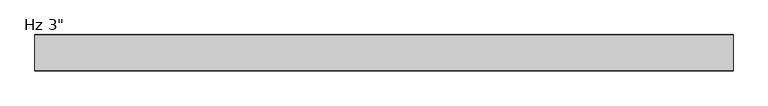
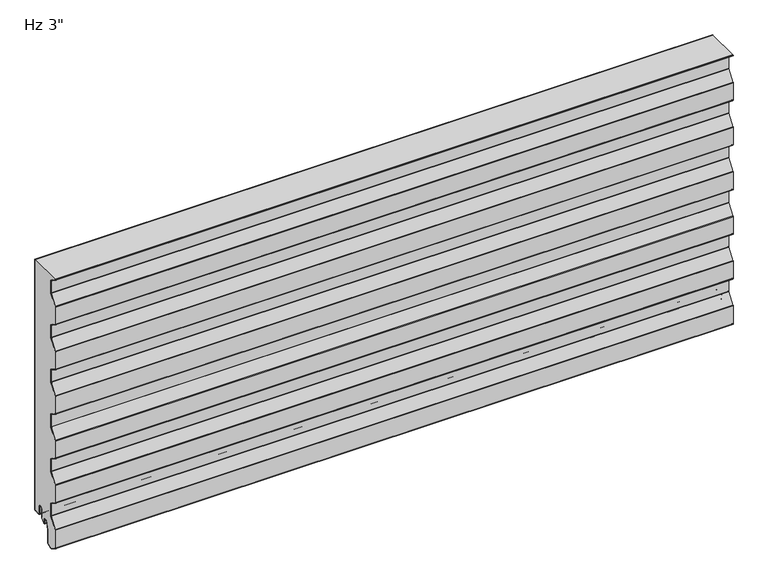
"""IFC4 building model written with IfcOpenShell, lengths in millimetres: plate geometry."""

from ifc_helpers import new_model, si_unit, point, frame, frame_2d, origin, place, context, project, spatial, polyline, circle_curve, trimmed, segment, composite_curve, outline, extrude, source, transform, mapped, element, save


def plate_4b2a5aca(model_context):
    return source(origin(), model_context, "Body", "SweptSolid", [
        extrude(outline(composite_curve([segment(polyline([(-75.4, 570.8938189), (-75.4, 571.2), (-0.8019381, 571.2), (-0.8019381, 2.3819944)]), True, "CONTINUOUS"), segment(trimmed(circle_curve(frame_2d((-2.3899344, 2.3819944)), 1.5879962), [point((-0.8019381, 2.3819944))], [point((-2.3899344, 0.7939981))], False, "CARTESIAN"), True, "CONTINUOUS"), segment(polyline([(-2.3899344, 0.7939981), (-15.0939043, 0.7939981)]), True, "CONTINUOUS"), segment(trimmed(circle_curve(frame_2d((-15.0939043, 2.3819944)), 1.5879962), [point((-15.0939043, 0.7939981))], [point((-16.6819006, 2.3819944))], False, "CARTESIAN"), True, "CONTINUOUS"), segment(polyline([(-16.6819006, 2.3819944), (-16.6819006, 18.2619569)]), True, "CONTINUOUS"), segment(trimmed(circle_curve(frame_2d((-21.4458893, 18.2619569)), 4.7639887), [point((-16.6819006, 18.2619569))], [point((-26.2098781, 18.2619569))], True, "CARTESIAN"), True, "CONTINUOUS"), segment(polyline([(-26.2098781, 18.2619569), (-26.2098781, -1.4125706), (-32.8499306, -8.4126539), (-33.420565, -7.8420194), (-33.9820065, -8.4034609)]), True, "CONTINUOUS"), segment(trimmed(circle_curve(frame_2d((-34.5434479, -7.8420194)), 0.7939981), [point((-33.9820065, -8.4034609))], [point((-35.3374461, -7.8420194))], False, "CARTESIAN"), True, "CONTINUOUS"), segment(polyline([(-35.3374461, -7.8420194), (-35.3374461, 0.2459424)]), True, "CONTINUOUS"), segment(trimmed(circle_curve(frame_2d((-38.4816786, 0.2459424)), 3.1442326), [point((-35.3374461, 0.2459424))], [point((-38.4816786, 3.3901749))], True, "CARTESIAN"), True, "CONTINUOUS"), segment(polyline([(-38.4816786, 3.3901749), (-41.1435342, 3.3901749)]), True, "CONTINUOUS"), segment(trimmed(circle_curve(frame_2d((-41.1435342, 0.2459424)), 3.1442326), [point((-41.1435342, 3.3901749))], [point((-44.1775993, 1.0709558))], True, "CARTESIAN"), True, "CONTINUOUS"), segment(polyline([(-44.1775993, 1.0709558), (-48.9305203, -16.4083609)]), True, "CONTINUOUS"), segment(trimmed(circle_curve(frame_2d((-45.8964552, -17.2333743)), 3.1442326), [point((-48.9305203, -16.4083609))], [point((-49.0406877, -17.2333743))], True, "CARTESIAN"), True, "CONTINUOUS"), segment(polyline([(-49.0406877, -17.2333743), (-49.0406877, -44.4184897)]), True, "CONTINUOUS"), segment(trimmed(circle_curve(frame_2d((-51.4226821, -44.4184897)), 2.3819944), [point((-49.0406877, -44.4184897))], [point((-50.6079921, -46.6568323))], False, "CARTESIAN"), True, "CONTINUOUS"), segment(polyline([(-50.6079921, -46.6568323), (-59.4675857, -49.8814606)]), True, "CONTINUOUS"), segment(trimmed(circle_curve(frame_2d((-60.2822757, -47.6431181)), 2.3819944), [point((-59.4675857, -49.8814606))], [point((-61.5078017, -49.6856614))], False, "CARTESIAN"), True, "CONTINUOUS"), segment(polyline([(-61.5078017, -49.6856614), (-74.6290211, -41.8129298)]), True, "CONTINUOUS"), segment(trimmed(circle_curve(frame_2d((-73.8120038, -40.4512342)), 1.5879962), [point((-74.6290211, -41.8129298))], [point((-75.4, -40.4512342))], False, "CARTESIAN"), True, "CONTINUOUS"), segment(polyline([(-75.4, -40.4512342), (-75.4, 0.3073137)]), True, "CONTINUOUS"), segment(trimmed(circle_curve(frame_2d((-73.8120038, 0.3073137)), 1.5879962), [point((-75.4, 0.3073137))], [point((-75.1042095, 1.2303177))], False, "CARTESIAN"), True, "CONTINUOUS"), segment(polyline([(-75.1042095, 1.2303177), (-59.9578075, 22.4352804)]), True, "CONTINUOUS"), segment(trimmed(circle_curve(frame_2d((-61.870272, 23.8013265)), 2.3502344), [point((-59.9578075, 22.4352804))], [point((-59.5200375, 23.8013265))], True, "CARTESIAN"), True, "CONTINUOUS"), segment(polyline([(-59.5200375, 23.8013265), (-59.5200375, 50.9772534)]), True, "CONTINUOUS"), segment(trimmed(circle_curve(frame_2d((-61.870272, 50.9772534)), 2.3502344), [point((-59.5200375, 50.9772534))], [point((-60.6610863, 52.9925629))], True, "CARTESIAN"), True, "CONTINUOUS"), segment(polyline([(-60.6610863, 52.9925629), (-74.6290211, 61.3733237)]), True, "CONTINUOUS"), segment(trimmed(circle_curve(frame_2d((-73.8120038, 62.7350193)), 1.5879962), [point((-74.6290211, 61.3733237))], [point((-75.4, 62.7350193))], False, "CARTESIAN"), True, "CONTINUOUS"), segment(polyline([(-75.4, 62.7350193), (-75.4, 101.9390736)]), True, "CONTINUOUS"), segment(trimmed(circle_curve(frame_2d((-73.8120038, 101.9390736)), 1.5879962), [point((-75.4, 101.9390736))], [point((-75.1042095, 102.8620777))], False, "CARTESIAN"), True, "CONTINUOUS"), segment(polyline([(-75.1042095, 102.8620777), (-59.9578075, 124.0670404)]), True, "CONTINUOUS"), segment(trimmed(circle_curve(frame_2d((-61.870272, 125.4330864)), 2.3502344), [point((-59.9578075, 124.0670404))], [point((-59.5200375, 125.4330864))], True, "CARTESIAN"), True, "CONTINUOUS"), segment(polyline([(-59.5200375, 125.4330864), (-59.5200375, 152.6090134)]), True, "CONTINUOUS"), segment(trimmed(circle_curve(frame_2d((-61.870272, 152.6090134)), 2.3502344), [point((-59.5200375, 152.6090134))], [point((-60.6610863, 154.6243228))], True, "CARTESIAN"), True, "CONTINUOUS"), segment(polyline([(-60.6610863, 154.6243228), (-74.6290211, 163.0050836)]), True, "CONTINUOUS"), segment(trimmed(circle_curve(frame_2d((-73.8120038, 164.3667792)), 1.5879962), [point((-74.6290211, 163.0050836))], [point((-75.4, 164.3667792))], False, "CARTESIAN"), True, "CONTINUOUS"), segment(polyline([(-75.4, 164.3667792), (-75.4, 203.5708335)]), True, "CONTINUOUS"), segment(trimmed(circle_curve(frame_2d((-73.8120038, 203.5708335)), 1.5879962), [point((-75.4, 203.5708335))], [point((-75.1042095, 204.4938376))], False, "CARTESIAN"), True, "CONTINUOUS"), segment(polyline([(-75.1042095, 204.4938376), (-59.9578075, 225.6988003)]), True, "CONTINUOUS"), segment(trimmed(circle_curve(frame_2d((-61.870272, 227.0648463)), 2.3502344), [point((-59.9578075, 225.6988003))], [point((-59.5200375, 227.0648463))], True, "CARTESIAN"), True, "CONTINUOUS"), segment(polyline([(-59.5200375, 227.0648463), (-59.5200375, 254.2407733)]), True, "CONTINUOUS"), segment(trimmed(circle_curve(frame_2d((-61.870272, 254.2407733)), 2.3502344), [point((-59.5200375, 254.2407733))], [point((-60.6610863, 256.2560827))], True, "CARTESIAN"), True, "CONTINUOUS"), segment(polyline([(-60.6610863, 256.2560827), (-74.6290211, 264.6368436)]), True, "CONTINUOUS"), segment(trimmed(circle_curve(frame_2d((-73.8120038, 265.9985391)), 1.5879962), [point((-74.6290211, 264.6368436))], [point((-75.4, 265.9985391))], False, "CARTESIAN"), True, "CONTINUOUS"), segment(polyline([(-75.4, 265.9985391), (-75.4, 305.2025934)]), True, "CONTINUOUS"), segment(trimmed(circle_curve(frame_2d((-73.8120038, 305.2025934)), 1.5879962), [point((-75.4, 305.2025934))], [point((-75.1042095, 306.1255975))], False, "CARTESIAN"), True, "CONTINUOUS"), segment(polyline([(-75.1042095, 306.1255975), (-59.9578075, 327.3305602)]), True, "CONTINUOUS"), segment(trimmed(circle_curve(frame_2d((-61.870272, 328.6966062)), 2.3502344), [point((-59.9578075, 327.3305602))], [point((-59.5200375, 328.6966062))], True, "CARTESIAN"), True, "CONTINUOUS"), segment(polyline([(-59.5200375, 328.6966062), (-59.5200375, 355.8725332)]), True, "CONTINUOUS"), segment(trimmed(circle_curve(frame_2d((-61.870272, 355.8725332)), 2.3502344), [point((-59.5200375, 355.8725332))], [point((-60.6610863, 357.8878426))], True, "CARTESIAN"), True, "CONTINUOUS"), segment(polyline([(-60.6610863, 357.8878426), (-74.6290211, 366.2686035)]), True, "CONTINUOUS"), segment(trimmed(circle_curve(frame_2d((-73.8120038, 367.630299)), 1.5879962), [point((-74.6290211, 366.2686035))], [point((-75.4, 367.630299))], False, "CARTESIAN"), True, "CONTINUOUS"), segment(polyline([(-75.4, 367.630299), (-75.4, 406.8343534)]), True, "CONTINUOUS"), segment(trimmed(circle_curve(frame_2d((-73.8120038, 406.8343534)), 1.5879962), [point((-75.4, 406.8343534))], [point((-75.1042095, 407.7573574))], False, "CARTESIAN"), True, "CONTINUOUS"), segment(polyline([(-75.1042095, 407.7573574), (-59.9578075, 428.9623201)]), True, "CONTINUOUS"), segment(trimmed(circle_curve(frame_2d((-61.870272, 430.3283662)), 2.3502344), [point((-59.9578075, 428.9623201))], [point((-59.5200375, 430.3283662))], True, "CARTESIAN"), True, "CONTINUOUS"), segment(polyline([(-59.5200375, 430.3283662), (-59.5200375, 457.5042931)]), True, "CONTINUOUS"), segment(trimmed(circle_curve(frame_2d((-61.870272, 457.5042931)), 2.3502344), [point((-59.5200375, 457.5042931))], [point((-60.6610863, 459.5196026))], True, "CARTESIAN"), True, "CONTINUOUS"), segment(polyline([(-60.6610863, 459.5196026), (-74.6290211, 467.9003634)]), True, "CONTINUOUS"), segment(trimmed(circle_curve(frame_2d((-73.8120038, 469.262059)), 1.5879962), [point((-74.6290211, 467.9003634))], [point((-75.4, 469.262059))], False, "CARTESIAN"), True, "CONTINUOUS"), segment(polyline([(-75.4, 469.262059), (-75.4, 508.4661133)]), True, "CONTINUOUS"), segment(trimmed(circle_curve(frame_2d((-73.8120038, 508.4661133)), 1.5879962), [point((-75.4, 508.4661133))], [point((-75.1042095, 509.3891174))], False, "CARTESIAN"), True, "CONTINUOUS"), segment(polyline([(-75.1042095, 509.3891174), (-59.9578075, 530.5940801)]), True, "CONTINUOUS"), segment(trimmed(circle_curve(frame_2d((-61.870272, 531.9601261)), 2.3502344), [point((-59.9578075, 530.5940801))], [point((-59.5200375, 531.9601261))], True, "CARTESIAN"), True, "CONTINUOUS"), segment(polyline([(-59.5200375, 531.9601261), (-59.5200375, 559.1360531)]), True, "CONTINUOUS"), segment(trimmed(circle_curve(frame_2d((-61.870272, 559.1360531)), 2.3502344), [point((-59.5200375, 559.1360531))], [point((-60.6610863, 561.1513625))], True, "CARTESIAN"), True, "CONTINUOUS"), segment(polyline([(-60.6610863, 561.1513625), (-74.6290211, 569.5321233)]), True, "CONTINUOUS"), segment(trimmed(circle_curve(frame_2d((-73.8120038, 570.8938189)), 1.5879962), [point((-74.6290211, 569.5321233))], [point((-75.4, 570.8938189))], False, "CARTESIAN"), True, "CONTINUOUS")], self_intersect=False)), frame((-730.0, 0.0, 0.0), z_axis=(1.0, 0.0, 0.0), x_axis=(0.0, 1.0, 0.0)), (0.0, 0.0, 1.0), 1460.0),
        extrude(outline(composite_curve([segment(polyline([(-0.7939981, 2.3819944), (-0.7939981, 571.2), (0.0, 571.2), (0.0, 2.3819944)]), True, "CONTINUOUS"), segment(trimmed(circle_curve(frame_2d((-2.3819944, 2.3819944)), 2.3819944), [point((0.0, 2.3819944))], [point((-2.3819944, 0.0))], False, "CARTESIAN"), True, "CONTINUOUS"), segment(polyline([(-2.3819944, 0.0), (-15.0859644, 0.0)]), True, "CONTINUOUS"), segment(trimmed(circle_curve(frame_2d((-15.0859644, 2.3819944)), 2.3819944), [point((-15.0859644, 0.0))], [point((-17.4679587, 2.3819944))], False, "CARTESIAN"), True, "CONTINUOUS"), segment(polyline([(-17.4679587, 2.3819944), (-17.4679587, 18.2619569)]), True, "CONTINUOUS"), segment(trimmed(circle_curve(frame_2d((-21.4379494, 18.2619569)), 3.9699906), [point((-17.4679587, 18.2619569))], [point((-25.40794, 18.2619569))], True, "CARTESIAN"), True, "CONTINUOUS"), segment(polyline([(-25.40794, 18.2619569), (-25.40794, 0.0), (-26.2019381, 0.0), (-26.2019381, 18.2619569)]), True, "CONTINUOUS"), segment(trimmed(circle_curve(frame_2d((-21.4379494, 18.2619569)), 4.7639887), [point((-26.2019381, 18.2619569))], [point((-16.6739606, 18.2619569))], False, "CARTESIAN"), True, "CONTINUOUS"), segment(polyline([(-16.6739606, 18.2619569), (-16.6739606, 2.3819944)]), True, "CONTINUOUS"), segment(trimmed(circle_curve(frame_2d((-15.0859644, 2.3819944)), 1.5879962), [point((-16.6739606, 2.3819944))], [point((-15.0859644, 0.7939981))], True, "CARTESIAN"), True, "CONTINUOUS"), segment(polyline([(-15.0859644, 0.7939981), (-2.3819944, 0.7939981)]), True, "CONTINUOUS"), segment(trimmed(circle_curve(frame_2d((-2.3819944, 2.3819944)), 1.5879962), [point((-2.3819944, 0.7939981))], [point((-0.7939981, 2.3819944))], True, "CARTESIAN"), True, "CONTINUOUS")], self_intersect=False)), frame((-730.0, 0.0, 0.0), z_axis=(1.0, 0.0, 0.0), x_axis=(0.0, 1.0, 0.0)), (0.0, 0.0, 1.0), 1460.0),
        extrude(outline(composite_curve([segment(polyline([(-76.2, 570.8938189), (-76.2, 571.2), (-75.4, 571.2), (-75.4, 570.8938189)]), True, "CONTINUOUS"), segment(trimmed(circle_curve(frame_2d((-73.8120038, 570.8938189)), 1.5879962), [point((-75.4, 570.8938189))], [point((-74.6290211, 569.5321233))], True, "CARTESIAN"), True, "CONTINUOUS"), segment(polyline([(-74.6290211, 569.5321233), (-60.6610863, 561.1513625)]), True, "CONTINUOUS"), segment(trimmed(circle_curve(frame_2d((-61.870272, 559.1360531)), 2.3502344), [point((-60.6610863, 561.1513625))], [point((-59.5200375, 559.1360531))], False, "CARTESIAN"), True, "CONTINUOUS"), segment(polyline([(-59.5200375, 559.1360531), (-59.5200375, 531.9601261)]), True, "CONTINUOUS"), segment(trimmed(circle_curve(frame_2d((-61.870272, 531.9601261)), 2.3502344), [point((-59.5200375, 531.9601261))], [point((-59.9578075, 530.5940801))], False, "CARTESIAN"), True, "CONTINUOUS"), segment(polyline([(-59.9578075, 530.5940801), (-75.1042095, 509.3891174)]), True, "CONTINUOUS"), segment(trimmed(circle_curve(frame_2d((-73.8120038, 508.4661133)), 1.5879962), [point((-75.1042095, 509.3891174))], [point((-75.4, 508.4661133))], True, "CARTESIAN"), True, "CONTINUOUS"), segment(polyline([(-75.4, 508.4661133), (-75.4, 469.262059)]), True, "CONTINUOUS"), segment(trimmed(circle_curve(frame_2d((-73.8120038, 469.262059)), 1.5879962), [point((-75.4, 469.262059))], [point((-74.6290211, 467.9003634))], True, "CARTESIAN"), True, "CONTINUOUS"), segment(polyline([(-74.6290211, 467.9003634), (-60.6610863, 459.5196026)]), True, "CONTINUOUS"), segment(trimmed(circle_curve(frame_2d((-61.870272, 457.5042931)), 2.3502344), [point((-60.6610863, 459.5196026))], [point((-59.5200375, 457.5042931))], False, "CARTESIAN"), True, "CONTINUOUS"), segment(polyline([(-59.5200375, 457.5042931), (-59.5200375, 430.3283662)]), True, "CONTINUOUS"), segment(trimmed(circle_curve(frame_2d((-61.870272, 430.3283662)), 2.3502344), [point((-59.5200375, 430.3283662))], [point((-59.9578075, 428.9623201))], False, "CARTESIAN"), True, "CONTINUOUS"), segment(polyline([(-59.9578075, 428.9623201), (-75.1042095, 407.7573574)]), True, "CONTINUOUS"), segment(trimmed(circle_curve(frame_2d((-73.8120038, 406.8343534)), 1.5879962), [point((-75.1042095, 407.7573574))], [point((-75.4, 406.8343534))], True, "CARTESIAN"), True, "CONTINUOUS"), segment(polyline([(-75.4, 406.8343534), (-75.4, 367.630299)]), True, "CONTINUOUS"), segment(trimmed(circle_curve(frame_2d((-73.8120038, 367.630299)), 1.5879962), [point((-75.4, 367.630299))], [point((-74.6290211, 366.2686035))], True, "CARTESIAN"), True, "CONTINUOUS"), segment(polyline([(-74.6290211, 366.2686035), (-60.6610863, 357.8878426)]), True, "CONTINUOUS"), segment(trimmed(circle_curve(frame_2d((-61.870272, 355.8725332)), 2.3502344), [point((-60.6610863, 357.8878426))], [point((-59.5200375, 355.8725332))], False, "CARTESIAN"), True, "CONTINUOUS"), segment(polyline([(-59.5200375, 355.8725332), (-59.5200375, 328.6966062)]), True, "CONTINUOUS"), segment(trimmed(circle_curve(frame_2d((-61.870272, 328.6966062)), 2.3502344), [point((-59.5200375, 328.6966062))], [point((-59.9578075, 327.3305602))], False, "CARTESIAN"), True, "CONTINUOUS"), segment(polyline([(-59.9578075, 327.3305602), (-75.1042095, 306.1255975)]), True, "CONTINUOUS"), segment(trimmed(circle_curve(frame_2d((-73.8120038, 305.2025934)), 1.5879962), [point((-75.1042095, 306.1255975))], [point((-75.4, 305.2025934))], True, "CARTESIAN"), True, "CONTINUOUS"), segment(polyline([(-75.4, 305.2025934), (-75.4, 265.9985391)]), True, "CONTINUOUS"), segment(trimmed(circle_curve(frame_2d((-73.8120038, 265.9985391)), 1.5879962), [point((-75.4, 265.9985391))], [point((-74.6290211, 264.6368436))], True, "CARTESIAN"), True, "CONTINUOUS"), segment(polyline([(-74.6290211, 264.6368436), (-60.6610863, 256.2560827)]), True, "CONTINUOUS"), segment(trimmed(circle_curve(frame_2d((-61.870272, 254.2407733)), 2.3502344), [point((-60.6610863, 256.2560827))], [point((-59.5200375, 254.2407733))], False, "CARTESIAN"), True, "CONTINUOUS"), segment(polyline([(-59.5200375, 254.2407733), (-59.5200375, 227.0648463)]), True, "CONTINUOUS"), segment(trimmed(circle_curve(frame_2d((-61.870272, 227.0648463)), 2.3502344), [point((-59.5200375, 227.0648463))], [point((-59.9578075, 225.6988003))], False, "CARTESIAN"), True, "CONTINUOUS"), segment(polyline([(-59.9578075, 225.6988003), (-75.1042095, 204.4938376)]), True, "CONTINUOUS"), segment(trimmed(circle_curve(frame_2d((-73.8120038, 203.5708335)), 1.5879962), [point((-75.1042095, 204.4938376))], [point((-75.4, 203.5708335))], True, "CARTESIAN"), True, "CONTINUOUS"), segment(polyline([(-75.4, 203.5708335), (-75.4, 164.3667792)]), True, "CONTINUOUS"), segment(trimmed(circle_curve(frame_2d((-73.8120038, 164.3667792)), 1.5879962), [point((-75.4, 164.3667792))], [point((-74.6290211, 163.0050836))], True, "CARTESIAN"), True, "CONTINUOUS"), segment(polyline([(-74.6290211, 163.0050836), (-60.6610863, 154.6243228)]), True, "CONTINUOUS"), segment(trimmed(circle_curve(frame_2d((-61.870272, 152.6090134)), 2.3502344), [point((-60.6610863, 154.6243228))], [point((-59.5200375, 152.6090134))], False, "CARTESIAN"), True, "CONTINUOUS"), segment(polyline([(-59.5200375, 152.6090134), (-59.5200375, 125.4330864)]), True, "CONTINUOUS"), segment(trimmed(circle_curve(frame_2d((-61.870272, 125.4330864)), 2.3502344), [point((-59.5200375, 125.4330864))], [point((-59.9578075, 124.0670404))], False, "CARTESIAN"), True, "CONTINUOUS"), segment(polyline([(-59.9578075, 124.0670404), (-75.1042095, 102.8620777)]), True, "CONTINUOUS"), segment(trimmed(circle_curve(frame_2d((-73.8120038, 101.9390736)), 1.5879962), [point((-75.1042095, 102.8620777))], [point((-75.4, 101.9390736))], True, "CARTESIAN"), True, "CONTINUOUS"), segment(polyline([(-75.4, 101.9390736), (-75.4, 62.7350193)]), True, "CONTINUOUS"), segment(trimmed(circle_curve(frame_2d((-73.8120038, 62.7350193)), 1.5879962), [point((-75.4, 62.7350193))], [point((-74.6290211, 61.3733237))], True, "CARTESIAN"), True, "CONTINUOUS"), segment(polyline([(-74.6290211, 61.3733237), (-60.6610863, 52.9925629)]), True, "CONTINUOUS"), segment(trimmed(circle_curve(frame_2d((-61.870272, 50.9772534)), 2.3502344), [point((-60.6610863, 52.9925629))], [point((-59.5200375, 50.9772534))], False, "CARTESIAN"), True, "CONTINUOUS"), segment(polyline([(-59.5200375, 50.9772534), (-59.5200375, 23.8013265)]), True, "CONTINUOUS"), segment(trimmed(circle_curve(frame_2d((-61.870272, 23.8013265)), 2.3502344), [point((-59.5200375, 23.8013265))], [point((-59.9578075, 22.4352804))], False, "CARTESIAN"), True, "CONTINUOUS"), segment(polyline([(-59.9578075, 22.4352804), (-75.1042095, 1.2303177)]), True, "CONTINUOUS"), segment(trimmed(circle_curve(frame_2d((-73.8120038, 0.3073137)), 1.5879962), [point((-75.1042095, 1.2303177))], [point((-75.4, 0.3073137))], True, "CARTESIAN"), True, "CONTINUOUS"), segment(polyline([(-75.4, 0.3073137), (-75.4, -40.4512342)]), True, "CONTINUOUS"), segment(trimmed(circle_curve(frame_2d((-73.8120038, -40.4512342)), 1.5879962), [point((-75.4, -40.4512342))], [point((-74.6290211, -41.8129298))], True, "CARTESIAN"), True, "CONTINUOUS"), segment(polyline([(-74.6290211, -41.8129298), (-61.5078017, -49.6856614)]), True, "CONTINUOUS"), segment(trimmed(circle_curve(frame_2d((-60.2822757, -47.6431181)), 2.3819944), [point((-61.5078017, -49.6856614))], [point((-59.4675857, -49.8814606))], True, "CARTESIAN"), True, "CONTINUOUS"), segment(polyline([(-59.4675857, -49.8814606), (-50.6079921, -46.6568323)]), True, "CONTINUOUS"), segment(trimmed(circle_curve(frame_2d((-51.4226821, -44.4184897)), 2.3819944), [point((-50.6079921, -46.6568323))], [point((-49.0406877, -44.4184897))], True, "CARTESIAN"), True, "CONTINUOUS"), segment(polyline([(-49.0406877, -44.4184897), (-49.0406877, -17.2333743)]), True, "CONTINUOUS"), segment(trimmed(circle_curve(frame_2d((-45.8964552, -17.2333743)), 3.1442326), [point((-49.0406877, -17.2333743))], [point((-48.9305203, -16.4083609))], False, "CARTESIAN"), True, "CONTINUOUS"), segment(polyline([(-48.9305203, -16.4083609), (-44.1775993, 1.0709558)]), True, "CONTINUOUS"), segment(trimmed(circle_curve(frame_2d((-41.1435342, 0.2459424)), 3.1442326), [point((-44.1775993, 1.0709558))], [point((-41.1435342, 3.3901749))], False, "CARTESIAN"), True, "CONTINUOUS"), segment(polyline([(-41.1435342, 3.3901749), (-38.4816786, 3.3901749)]), True, "CONTINUOUS"), segment(trimmed(circle_curve(frame_2d((-38.4816786, 0.2459424)), 3.1442326), [point((-38.4816786, 3.3901749))], [point((-35.3374461, 0.2459424))], False, "CARTESIAN"), True, "CONTINUOUS"), segment(polyline([(-35.3374461, 0.2459424), (-35.3374461, -7.9201444)]), True, "CONTINUOUS"), segment(trimmed(circle_curve(frame_2d((-34.5434479, -7.9201444)), 0.7939981), [point((-35.3374461, -7.9201444))], [point((-33.9820065, -8.4815859))], True, "CARTESIAN"), True, "CONTINUOUS"), segment(polyline([(-33.9820065, -8.4815859), (-33.420565, -7.9201444), (-32.8548796, -8.4858299), (-33.4163211, -9.0472713)]), True, "CONTINUOUS"), segment(trimmed(circle_curve(frame_2d((-34.5434479, -7.9201444)), 1.5939981), [point((-33.4163211, -9.0472713))], [point((-36.1374461, -7.9201444))], False, "CARTESIAN"), True, "CONTINUOUS"), segment(polyline([(-36.1374461, -7.9201444), (-36.1374461, 0.2459424)]), True, "CONTINUOUS"), segment(trimmed(circle_curve(frame_2d((-38.4816786, 0.2459424)), 2.3442326), [point((-36.1374461, 0.2459424))], [point((-38.4816786, 2.5901749))], True, "CARTESIAN"), True, "CONTINUOUS"), segment(polyline([(-38.4816786, 2.5901749), (-41.1435342, 2.5901749)]), True, "CONTINUOUS"), segment(trimmed(circle_curve(frame_2d((-41.1435342, 0.2459424)), 2.3442326), [point((-41.1435342, 2.5901749))], [point((-43.4056297, 0.8610443))], True, "CARTESIAN"), True, "CONTINUOUS"), segment(polyline([(-43.4056297, 0.8610443), (-48.2406877, -16.9203393), (-48.2406877, -44.4184897)]), True, "CONTINUOUS"), segment(trimmed(circle_curve(frame_2d((-51.4226821, -44.4184897)), 3.1819944), [point((-48.2406877, -44.4184897))], [point((-50.3343759, -47.4085864))], False, "CARTESIAN"), True, "CONTINUOUS"), segment(polyline([(-50.3343759, -47.4085864), (-59.1939695, -50.6332147)]), True, "CONTINUOUS"), segment(trimmed(circle_curve(frame_2d((-60.2822757, -47.6431181)), 3.1819944), [point((-59.1939695, -50.6332147))], [point((-61.9193983, -50.3716558))], False, "CARTESIAN"), True, "CONTINUOUS"), segment(polyline([(-61.9193983, -50.3716558), (-75.0406177, -42.4989241)]), True, "CONTINUOUS"), segment(trimmed(circle_curve(frame_2d((-73.8120038, -40.4512342)), 2.3879962), [point((-75.0406177, -42.4989241))], [point((-76.2, -40.4512342))], False, "CARTESIAN"), True, "CONTINUOUS"), segment(polyline([(-76.2, -40.4512342), (-76.2, 0.3073137)]), True, "CONTINUOUS"), segment(trimmed(circle_curve(frame_2d((-73.8120038, 0.3073137)), 2.3879962), [point((-76.2, 0.3073137))], [point((-75.7551962, 1.6953083))], False, "CARTESIAN"), True, "CONTINUOUS"), segment(polyline([(-75.7551962, 1.6953083), (-60.6087943, 22.900271)]), True, "CONTINUOUS"), segment(trimmed(circle_curve(frame_2d((-61.870272, 23.8013265)), 1.5502344), [point((-60.6087943, 22.900271))], [point((-60.3200375, 23.8013265))], True, "CARTESIAN"), True, "CONTINUOUS"), segment(polyline([(-60.3200375, 23.8013265), (-60.3200375, 50.9772534)]), True, "CONTINUOUS"), segment(trimmed(circle_curve(frame_2d((-61.870272, 50.9772534)), 1.5502344), [point((-60.3200375, 50.9772534))], [point((-61.0726829, 52.3065685))], True, "CARTESIAN"), True, "CONTINUOUS"), segment(polyline([(-61.0726829, 52.3065685), (-75.0406177, 60.6873294)]), True, "CONTINUOUS"), segment(trimmed(circle_curve(frame_2d((-73.8120038, 62.7350193)), 2.3879962), [point((-75.0406177, 60.6873294))], [point((-76.2, 62.7350193))], False, "CARTESIAN"), True, "CONTINUOUS"), segment(polyline([(-76.2, 62.7350193), (-76.2, 101.9390736)]), True, "CONTINUOUS"), segment(trimmed(circle_curve(frame_2d((-73.8120038, 101.9390736)), 2.3879962), [point((-76.2, 101.9390736))], [point((-75.7551962, 103.3270682))], False, "CARTESIAN"), True, "CONTINUOUS"), segment(polyline([(-75.7551962, 103.3270682), (-60.6087943, 124.5320309)]), True, "CONTINUOUS"), segment(trimmed(circle_curve(frame_2d((-61.870272, 125.4330864)), 1.5502344), [point((-60.6087943, 124.5320309))], [point((-60.3200375, 125.4330864))], True, "CARTESIAN"), True, "CONTINUOUS"), segment(polyline([(-60.3200375, 125.4330864), (-60.3200375, 152.6090134)]), True, "CONTINUOUS"), segment(trimmed(circle_curve(frame_2d((-61.870272, 152.6090134)), 1.5502344), [point((-60.3200375, 152.6090134))], [point((-61.0726829, 153.9383284))], True, "CARTESIAN"), True, "CONTINUOUS"), segment(polyline([(-61.0726829, 153.9383284), (-75.0406177, 162.3190893)]), True, "CONTINUOUS"), segment(trimmed(circle_curve(frame_2d((-73.8120038, 164.3667792)), 2.3879962), [point((-75.0406177, 162.3190893))], [point((-76.2, 164.3667792))], False, "CARTESIAN"), True, "CONTINUOUS"), segment(polyline([(-76.2, 164.3667792), (-76.2, 203.5708335)]), True, "CONTINUOUS"), segment(trimmed(circle_curve(frame_2d((-73.8120038, 203.5708335)), 2.3879962), [point((-76.2, 203.5708335))], [point((-75.7551962, 204.9588281))], False, "CARTESIAN"), True, "CONTINUOUS"), segment(polyline([(-75.7551962, 204.9588281), (-60.6087943, 226.1637908)]), True, "CONTINUOUS"), segment(trimmed(circle_curve(frame_2d((-61.870272, 227.0648463)), 1.5502344), [point((-60.6087943, 226.1637908))], [point((-60.3200375, 227.0648463))], True, "CARTESIAN"), True, "CONTINUOUS"), segment(polyline([(-60.3200375, 227.0648463), (-60.3200375, 254.2407733)]), True, "CONTINUOUS"), segment(trimmed(circle_curve(frame_2d((-61.870272, 254.2407733)), 1.5502344), [point((-60.3200375, 254.2407733))], [point((-61.0726829, 255.5700884))], True, "CARTESIAN"), True, "CONTINUOUS"), segment(polyline([(-61.0726829, 255.5700884), (-75.0406177, 263.9508492)]), True, "CONTINUOUS"), segment(trimmed(circle_curve(frame_2d((-73.8120038, 265.9985391)), 2.3879962), [point((-75.0406177, 263.9508492))], [point((-76.2, 265.9985391))], False, "CARTESIAN"), True, "CONTINUOUS"), segment(polyline([(-76.2, 265.9985391), (-76.2, 305.2025934)]), True, "CONTINUOUS"), segment(trimmed(circle_curve(frame_2d((-73.8120038, 305.2025934)), 2.3879962), [point((-76.2, 305.2025934))], [point((-75.7551962, 306.5905881))], False, "CARTESIAN"), True, "CONTINUOUS"), segment(polyline([(-75.7551962, 306.5905881), (-60.6087943, 327.7955508)]), True, "CONTINUOUS"), segment(trimmed(circle_curve(frame_2d((-61.870272, 328.6966062)), 1.5502344), [point((-60.6087943, 327.7955508))], [point((-60.3200375, 328.6966062))], True, "CARTESIAN"), True, "CONTINUOUS"), segment(polyline([(-60.3200375, 328.6966062), (-60.3200375, 355.8725332)]), True, "CONTINUOUS"), segment(trimmed(circle_curve(frame_2d((-61.870272, 355.8725332)), 1.5502344), [point((-60.3200375, 355.8725332))], [point((-61.0726829, 357.2018483))], True, "CARTESIAN"), True, "CONTINUOUS"), segment(polyline([(-61.0726829, 357.2018483), (-75.0406177, 365.5826092)]), True, "CONTINUOUS"), segment(trimmed(circle_curve(frame_2d((-73.8120038, 367.630299)), 2.3879962), [point((-75.0406177, 365.5826092))], [point((-76.2, 367.630299))], False, "CARTESIAN"), True, "CONTINUOUS"), segment(polyline([(-76.2, 367.630299), (-76.2, 406.8343534)]), True, "CONTINUOUS"), segment(trimmed(circle_curve(frame_2d((-73.8120038, 406.8343534)), 2.3879962), [point((-76.2, 406.8343534))], [point((-75.7551962, 408.222348))], False, "CARTESIAN"), True, "CONTINUOUS"), segment(polyline([(-75.7551962, 408.222348), (-60.6087943, 429.4273107)]), True, "CONTINUOUS"), segment(trimmed(circle_curve(frame_2d((-61.870272, 430.3283662)), 1.5502344), [point((-60.6087943, 429.4273107))], [point((-60.3200375, 430.3283662))], True, "CARTESIAN"), True, "CONTINUOUS"), segment(polyline([(-60.3200375, 430.3283662), (-60.3200375, 457.5042931)]), True, "CONTINUOUS"), segment(trimmed(circle_curve(frame_2d((-61.870272, 457.5042931)), 1.5502344), [point((-60.3200375, 457.5042931))], [point((-61.0726829, 458.8336082))], True, "CARTESIAN"), True, "CONTINUOUS"), segment(polyline([(-61.0726829, 458.8336082), (-75.0406177, 467.2143691)]), True, "CONTINUOUS"), segment(trimmed(circle_curve(frame_2d((-73.8120038, 469.262059)), 2.3879962), [point((-75.0406177, 467.2143691))], [point((-76.2, 469.262059))], False, "CARTESIAN"), True, "CONTINUOUS"), segment(polyline([(-76.2, 469.262059), (-76.2, 508.4661133)]), True, "CONTINUOUS"), segment(trimmed(circle_curve(frame_2d((-73.8120038, 508.4661133)), 2.3879962), [point((-76.2, 508.4661133))], [point((-75.7551962, 509.8541079))], False, "CARTESIAN"), True, "CONTINUOUS"), segment(polyline([(-75.7551962, 509.8541079), (-60.6087943, 531.0590706)]), True, "CONTINUOUS"), segment(trimmed(circle_curve(frame_2d((-61.870272, 531.9601261)), 1.5502344), [point((-60.6087943, 531.0590706))], [point((-60.3200375, 531.9601261))], True, "CARTESIAN"), True, "CONTINUOUS"), segment(polyline([(-60.3200375, 531.9601261), (-60.3200375, 559.1360531)]), True, "CONTINUOUS"), segment(trimmed(circle_curve(frame_2d((-61.870272, 559.1360531)), 1.5502344), [point((-60.3200375, 559.1360531))], [point((-61.0726829, 560.4653681))], True, "CARTESIAN"), True, "CONTINUOUS"), segment(polyline([(-61.0726829, 560.4653681), (-75.0406177, 568.846129)]), True, "CONTINUOUS"), segment(trimmed(circle_curve(frame_2d((-73.8120038, 570.8938189)), 2.3879962), [point((-75.0406177, 568.846129))], [point((-76.2, 570.8938189))], False, "CARTESIAN"), True, "CONTINUOUS")], self_intersect=False)), frame((-730.0, 0.0, 0.0), z_axis=(1.0, 0.0, 0.0), x_axis=(0.0, 1.0, 0.0)), (0.0, 0.0, 1.0), 1460.0),
    ])


if __name__ == "__main__":
    model = new_model("IFC4")
    model_context = context("Model", 3, world=origin())
    ifc_project = project(units=[si_unit("LENGTHUNIT", "METRE", prefix="MILLI")], contexts=[model_context])
    site = spatial("IfcSite", under=ifc_project)
    building = spatial("IfcBuilding", under=site)
    placement = place(None, origin())
    plate_shape = plate_4b2a5aca(model_context)
    element("IfcPlate", 1, ObjectType="KIP-36-Vale-R19-CP-Hz : Hz 3\"", at=placement, inside=building, context=model_context, shape_type="MappedRepresentation", body=[
        mapped(plate_shape, transform((0.0, 0.0, 0.0), x_axis=(1.0, 0.0, 0.0), y_axis=(0.0, 1.0, 0.0), z_axis=(0.0, 0.0, 1.0))),
    ])
    save(model, "model.ifc")
